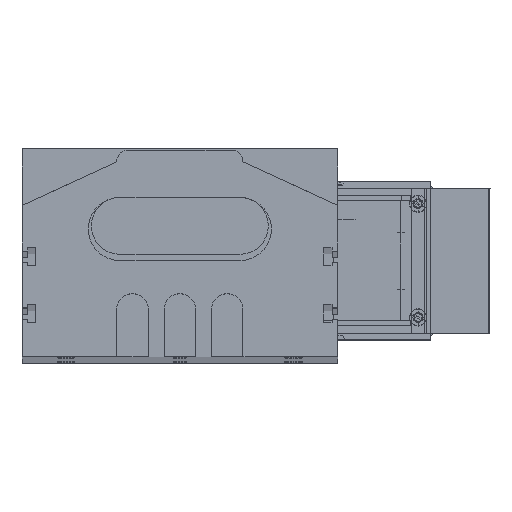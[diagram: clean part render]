
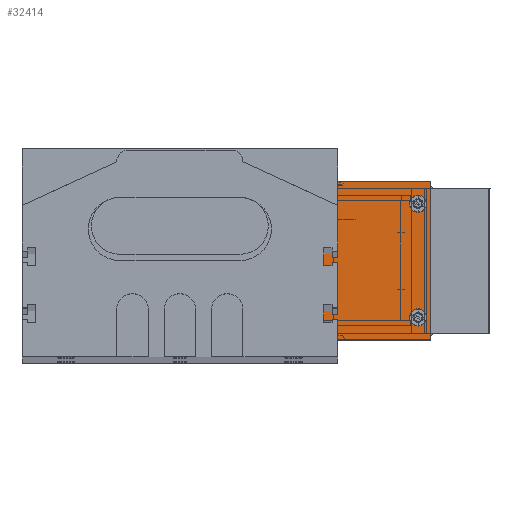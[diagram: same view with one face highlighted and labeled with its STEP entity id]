
A CAD part, top view. The second image highlights one B-rep face of the part: STEP entity #32414.
In plain terms, the highlighted planar face has unit normal (0, 0, 1) as drawn and (0, -1, 0) by its records, which use the part's own axes.
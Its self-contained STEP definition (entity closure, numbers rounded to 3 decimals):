
#12139 = CIRCLE ( 'NONE', #12233, 2.75 ) ;
#12178 = CARTESIAN_POINT ( 'NONE',  ( -39., -2., 7.25 ) ) ;
#12189 = DIRECTION ( 'NONE',  ( 0., 0., -1. ) ) ;
#12190 = DIRECTION ( 'NONE',  ( 0., -1., 0. ) ) ;
#12191 = CARTESIAN_POINT ( 'NONE',  ( -39., -2., -10. ) ) ;
#12193 = AXIS2_PLACEMENT_3D ( 'NONE', #12191, #12190, #12189 ) ;
#12204 = CIRCLE ( 'NONE', #12193, 2.75 ) ;
#12211 = CARTESIAN_POINT ( 'NONE',  ( 20.2, -2., -15.25 ) ) ;
#12230 = DIRECTION ( 'NONE',  ( 0., 0., -1. ) ) ;
#12231 = DIRECTION ( 'NONE',  ( 0., -1., 0. ) ) ;
#12232 = CARTESIAN_POINT ( 'NONE',  ( -39., -2., 10. ) ) ;
#12233 = AXIS2_PLACEMENT_3D ( 'NONE', #12232, #12231, #12230 ) ;
#12235 = CARTESIAN_POINT ( 'NONE',  ( -39., -2., -7.25 ) ) ;
#12255 = CARTESIAN_POINT ( 'NONE',  ( -39., -2., 12.75 ) ) ;
#12308 = CARTESIAN_POINT ( 'NONE',  ( -39., -2., -12.75 ) ) ;
#12343 = AXIS2_PLACEMENT_3D ( 'NONE', #12412, #12397, #12396 ) ;
#12382 = DIRECTION ( 'NONE',  ( 0., 0., -1. ) ) ;
#12383 = AXIS2_PLACEMENT_3D ( 'NONE', #12387, #12392, #12382 ) ;
#12386 = CARTESIAN_POINT ( 'NONE',  ( 20.2, -2., 15.25 ) ) ;
#12387 = CARTESIAN_POINT ( 'NONE',  ( 20.2, -2., 18. ) ) ;
#12392 = DIRECTION ( 'NONE',  ( 0., -1., 0. ) ) ;
#12393 = CIRCLE ( 'NONE', #12383, 2.75 ) ;
#12396 = DIRECTION ( 'NONE',  ( 0., 0., -1. ) ) ;
#12397 = DIRECTION ( 'NONE',  ( 0., -1., 0. ) ) ;
#12398 = CARTESIAN_POINT ( 'NONE',  ( 20.2, -2., -20.75 ) ) ;
#12406 = CIRCLE ( 'NONE', #12343, 2.75 ) ;
#12412 = CARTESIAN_POINT ( 'NONE',  ( 20.2, -2., -18. ) ) ;
#12415 = CARTESIAN_POINT ( 'NONE',  ( 20.2, -2., 20.75 ) ) ;
#12422 = DIRECTION ( 'NONE',  ( 0., 0., -1. ) ) ;
#12423 = DIRECTION ( 'NONE',  ( 0., -1., 0. ) ) ;
#12424 = CARTESIAN_POINT ( 'NONE',  ( 20.2, -2., -18. ) ) ;
#12425 = AXIS2_PLACEMENT_3D ( 'NONE', #12424, #12423, #12422 ) ;
#12426 = CIRCLE ( 'NONE', #12487, 2.75 ) ;
#12444 = CIRCLE ( 'NONE', #12425, 2.75 ) ;
#12474 = CARTESIAN_POINT ( 'NONE',  ( 24., -2., 25. ) ) ;
#12480 = DIRECTION ( 'NONE',  ( 0., 0., -1. ) ) ;
#12481 = DIRECTION ( 'NONE',  ( 0., -1., 0. ) ) ;
#12482 = CARTESIAN_POINT ( 'NONE',  ( 20.2, -2., 18. ) ) ;
#12487 = AXIS2_PLACEMENT_3D ( 'NONE', #12482, #12481, #12480 ) ;
#12639 = CARTESIAN_POINT ( 'NONE',  ( -42., -2., 25. ) ) ;
#12715 = CARTESIAN_POINT ( 'NONE',  ( 24., -2., -25. ) ) ;
#12717 = CARTESIAN_POINT ( 'NONE',  ( -42., -2., -25. ) ) ;
#12731 = DIRECTION ( 'NONE',  ( 0., 0., -1. ) ) ;
#12734 = DIRECTION ( 'NONE',  ( 0., -1., 0. ) ) ;
#12735 = AXIS2_PLACEMENT_3D ( 'NONE', #12753, #12734, #12731 ) ;
#12749 = CIRCLE ( 'NONE', #12791, 2.75 ) ;
#12750 = CIRCLE ( 'NONE', #12735, 2.75 ) ;
#12753 = CARTESIAN_POINT ( 'NONE',  ( -39., -2., 10. ) ) ;
#12788 = DIRECTION ( 'NONE',  ( 0., 0., -1. ) ) ;
#12789 = DIRECTION ( 'NONE',  ( 0., -1., 0. ) ) ;
#12790 = CARTESIAN_POINT ( 'NONE',  ( -39., -2., -10. ) ) ;
#12791 = AXIS2_PLACEMENT_3D ( 'NONE', #12790, #12789, #12788 ) ;
#12939 = LINE ( 'NONE', #13003, #13001 ) ;
#12984 = DIRECTION ( 'NONE',  ( 0., 0., -1. ) ) ;
#12985 = VECTOR ( 'NONE', #12984, 1000. ) ;
#12986 = CARTESIAN_POINT ( 'NONE',  ( 24., -2., 25. ) ) ;
#12987 = LINE ( 'NONE', #12986, #12985 ) ;
#12994 = DIRECTION ( 'NONE',  ( 0., 0., 1. ) ) ;
#12996 = VECTOR ( 'NONE', #12994, 1000. ) ;
#12997 = CARTESIAN_POINT ( 'NONE',  ( -42., -2., -25. ) ) ;
#12998 = LINE ( 'NONE', #12997, #12996 ) ;
#13000 = DIRECTION ( 'NONE',  ( -1., 0., 0. ) ) ;
#13001 = VECTOR ( 'NONE', #13000, 1000. ) ;
#13003 = CARTESIAN_POINT ( 'NONE',  ( 37., -2., -25. ) ) ;
#13022 = FACE_BOUND ( 'NONE', #32222, .T. ) ;
#13023 = FACE_OUTER_BOUND ( 'NONE', #32381, .T. ) ;
#13024 = CARTESIAN_POINT ( 'NONE',  ( 37., -2., -25. ) ) ;
#13025 = AXIS2_PLACEMENT_3D ( 'NONE', #13024, #13084, #13083 ) ;
#13026 = FACE_BOUND ( 'NONE', #32420, .T. ) ;
#13027 = FACE_BOUND ( 'NONE', #32387, .T. ) ;
#13036 = PLANE ( 'NONE',  #13025 ) ;
#13046 = FACE_BOUND ( 'NONE', #32426, .T. ) ;
#13077 = DIRECTION ( 'NONE',  ( 1., 0., 0. ) ) ;
#13078 = VECTOR ( 'NONE', #13077, 1000. ) ;
#13079 = CARTESIAN_POINT ( 'NONE',  ( -37., -2., 25. ) ) ;
#13083 = DIRECTION ( 'NONE',  ( 0., 0., 1. ) ) ;
#13084 = DIRECTION ( 'NONE',  ( 0., 1., 0. ) ) ;
#13085 = LINE ( 'NONE', #13079, #13078 ) ;
#31988 = EDGE_CURVE ( 'NONE', #31998, #32061, #12204, .T. ) ;
#31996 = EDGE_CURVE ( 'NONE', #32016, #31999, #12139, .T. ) ;
#31998 = VERTEX_POINT ( 'NONE', #12235 ) ;
#31999 = VERTEX_POINT ( 'NONE', #12178 ) ;
#32016 = VERTEX_POINT ( 'NONE', #12255 ) ;
#32018 = VERTEX_POINT ( 'NONE', #12211 ) ;
#32061 = VERTEX_POINT ( 'NONE', #12308 ) ;
#32079 = EDGE_CURVE ( 'NONE', #32080, #32018, #12406, .T. ) ;
#32080 = VERTEX_POINT ( 'NONE', #12398 ) ;
#32086 = EDGE_CURVE ( 'NONE', #32094, #32112, #12393, .T. ) ;
#32094 = VERTEX_POINT ( 'NONE', #12386 ) ;
#32107 = EDGE_CURVE ( 'NONE', #32018, #32080, #12444, .T. ) ;
#32112 = VERTEX_POINT ( 'NONE', #12415 ) ;
#32116 = EDGE_CURVE ( 'NONE', #32112, #32094, #12426, .T. ) ;
#32128 = ORIENTED_EDGE ( 'NONE', *, *, #31996, .F. ) ;
#32130 = VERTEX_POINT ( 'NONE', #12474 ) ;
#32222 = EDGE_LOOP ( 'NONE', ( #32354, #32400 ) ) ;
#32226 = VERTEX_POINT ( 'NONE', #12639 ) ;
#32228 = VERTEX_POINT ( 'NONE', #12717 ) ;
#32231 = VERTEX_POINT ( 'NONE', #12715 ) ;
#32243 = EDGE_CURVE ( 'NONE', #31999, #32016, #12750, .T. ) ;
#32258 = EDGE_CURVE ( 'NONE', #32061, #31998, #12749, .T. ) ;
#32354 = ORIENTED_EDGE ( 'NONE', *, *, #32258, .F. ) ;
#32381 = EDGE_LOOP ( 'NONE', ( #32410, #32430, #32385, #32401 ) ) ;
#32382 = EDGE_CURVE ( 'NONE', #32231, #32228, #12939, .T. ) ;
#32383 = EDGE_CURVE ( 'NONE', #32228, #32226, #12998, .T. ) ;
#32385 = ORIENTED_EDGE ( 'NONE', *, *, #32383, .F. ) ;
#32387 = EDGE_LOOP ( 'NONE', ( #32403, #32128 ) ) ;
#32392 = EDGE_CURVE ( 'NONE', #32130, #32231, #12987, .T. ) ;
#32400 = ORIENTED_EDGE ( 'NONE', *, *, #31988, .F. ) ;
#32401 = ORIENTED_EDGE ( 'NONE', *, *, #32382, .F. ) ;
#32403 = ORIENTED_EDGE ( 'NONE', *, *, #32243, .F. ) ;
#32405 = ORIENTED_EDGE ( 'NONE', *, *, #32107, .F. ) ;
#32407 = ORIENTED_EDGE ( 'NONE', *, *, #32079, .F. ) ;
#32410 = ORIENTED_EDGE ( 'NONE', *, *, #32392, .F. ) ;
#32414 = ADVANCED_FACE ( 'NONE', ( #13023, #13027, #13022, #13026, #13046 ), #13036, .F. ) ;
#32416 = EDGE_CURVE ( 'NONE', #32226, #32130, #13085, .T. ) ;
#32417 = ORIENTED_EDGE ( 'NONE', *, *, #32116, .F. ) ;
#32420 = EDGE_LOOP ( 'NONE', ( #32407, #32405 ) ) ;
#32423 = ORIENTED_EDGE ( 'NONE', *, *, #32086, .F. ) ;
#32426 = EDGE_LOOP ( 'NONE', ( #32423, #32417 ) ) ;
#32430 = ORIENTED_EDGE ( 'NONE', *, *, #32416, .F. ) ;
